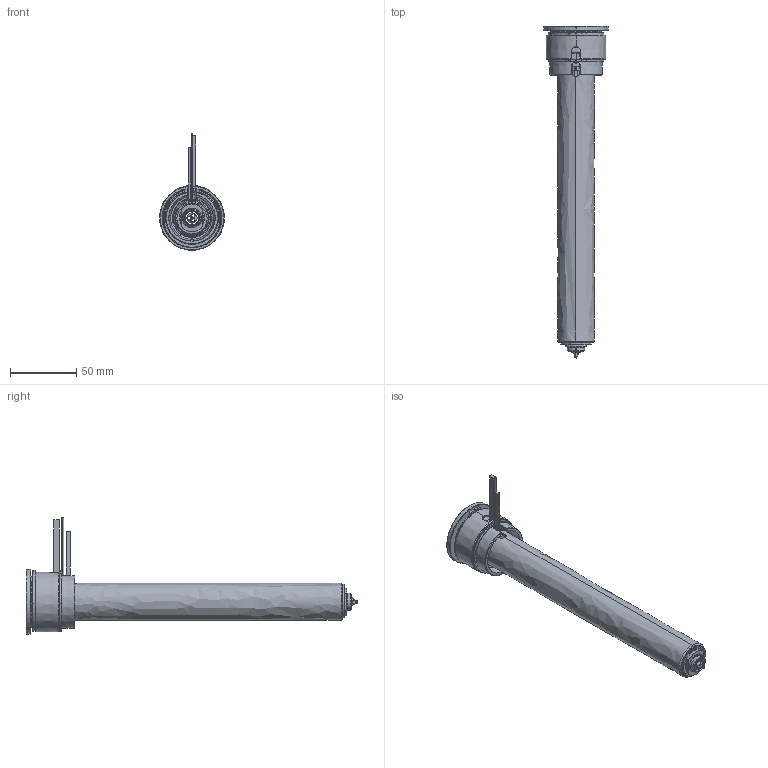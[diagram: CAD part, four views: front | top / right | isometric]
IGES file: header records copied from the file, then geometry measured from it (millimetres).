
Start section: SolidWorks IGES file using analytic representation for surfaces
Global section: file name: C:\Documents and Settings\ws-20\Desktop\TEM\UGEP4505-S-A-1 [Øf-1.17 ØC-10].IGS; native system: SolidWorks 2012; preprocessor: SolidWorks 2012; author: ws-20; date: 120424.091148; units: millimetre
Bounding box: 49 x 250.8 x 88.15 mm (x, y, z)
Surface area: 84721.4 mm2 (no closed solid volume)
Topology: 0 solids, 0 shells, 187 faces, 3577 edges, 3577 vertices
Faces by surface type: revolution 120, bspline 67
